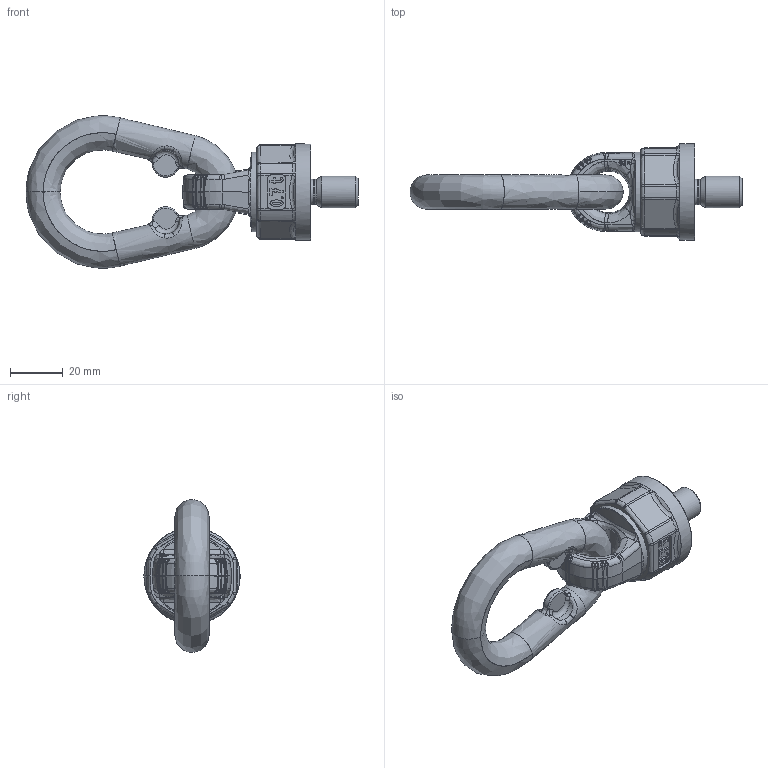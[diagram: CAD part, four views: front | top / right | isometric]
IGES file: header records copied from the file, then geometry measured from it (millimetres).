
Global section: file name: C:\IDEAS\IDEAS-DATEN\Temp\TP0.7_M12x18_senkrecht.igs; preprocessor: I-DEAS 3D IGES Translator 11; date: 20071107.111755; units: millimetre
Bounding box: 126 x 36.49 x 57.95 mm (x, y, z)
Surface area: 14738.5 mm2 (no closed solid volume)
Topology: 0 solids, 0 shells, 567 faces, 2989 edges, 2932 vertices
Faces by surface type: bspline 567
